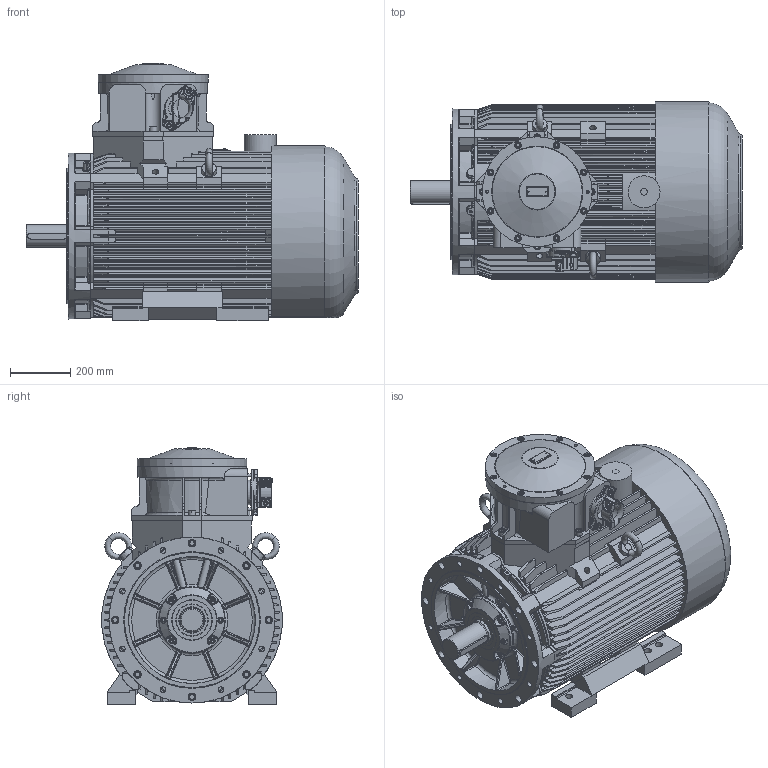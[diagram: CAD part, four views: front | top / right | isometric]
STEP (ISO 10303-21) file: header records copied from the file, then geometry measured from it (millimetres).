
FILE_DESCRIPTION(/* description */ ('Unknown'),/* implementation_level */ '2;1');
FILE_NAME(/* name */ 'cSTLe280SM4-8-IE2-3',/* time_stamp */ '2021-12-27T09:54:23+01:00',/* author */ ('Unknown'),/* organization */ ('Unknown'),/* preprocessor_version */ 'ST-DEVELOPER v16.7',/* originating_system */ 'DEX',/* authorisation */ $);
FILE_SCHEMA (('AUTOMOTIVE_DESIGN {1 0 10303 214 3 1 1}'));
Products named in the file (1): cSTLe280SM4-8-IE2-3
Bounding box: 1100.13 x 597.51 x 851.76 mm (x, y, z)
Volume: 247195222.7 mm3; surface area: 5586368.5 mm2
Topology: 1 solids, 48 shells, 2903 faces, 7434 edges, 4661 vertices
Faces by surface type: plane 1115, cylinder 918, cone 299, bspline 256, torus 233, sphere 82
Full cylindrical faces by diameter (mm): 2.459 x4, 2.8 x2, 4.5 x1, 6 x2, 8.16 x4, 8.376 x6, 8.917 x2, 9.853 x8, 10 x12, 10.106 x8, 11 x6, 12 x18, 13.5 x8, 13.546 x8, 13.835 x2, 16 x28, 17.5 x12, 18 x8, 18.376 x1, 19 x8, 19.6 x2, 20.752 x10, 22 x8, 22.376 x1, 24 x18, 26 x8, 67 x1, 75 x1, 81.5 x1, 84 x1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
Entity records: 114570 total; most frequent: CARTESIAN_POINT 27672, ORIENTED_EDGE 13696, DIRECTION 13611, EDGE_CURVE 6848, AXIS2_PLACEMENT_3D 5232, VERTEX_POINT 4520, FACE_BOUND 3498, EDGE_LOOP 3477
